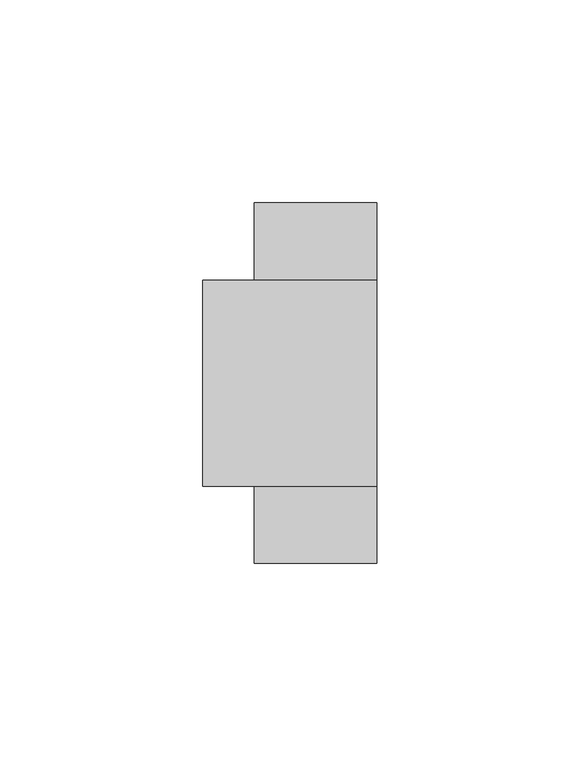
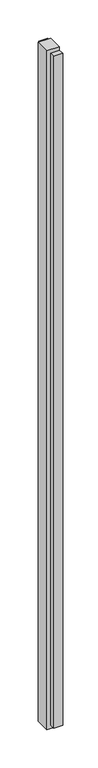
"""IFC4 building model written with IfcOpenShell, lengths in millimetres: furniture geometry, Allsteel - Aspect - Trim - Vertical Trim Kit : Allsteel - Aspect - Trim - Vertical Trim Kit."""

from ifc_helpers import new_model, si_unit, origin, place, context, project, spatial, faceted_brep, source, transform, mapped, element, save


def furniture_fadbf666(model_context):
    return source(origin(), model_context, "Body", "Brep", [
        faceted_brep([(0.0, -25.4, 2438.4), (0.0, 25.4, 2438.4), (-42.8625, 25.4, 2438.4), (-42.8625, -25.4, 2438.4), (0.0, -9.525, 2425.7), (-30.1625, -9.525, 2425.7), (-30.1625, 9.525, 2425.7), (0.0, 9.525, 2425.7), (-42.8625, -25.4, 0.0), (0.0, -25.4, 0.0), (0.0, -25.4, 12.7), (-30.1625, -25.4, 12.7), (-30.1625, -25.4, 2425.7), (0.0, -25.4, 2425.7), (-42.8625, 25.4, 0.0), (0.0, 25.4, 2425.7), (-30.1625, 25.4, 2425.7), (-30.1625, 25.4, 12.7), (0.0, 25.4, 12.7), (0.0, 25.4, 0.0), (0.0, -44.45, 2425.7), (0.0, -44.45, 12.7), (0.0, 44.45, 12.7), (0.0, 44.45, 2425.7), (0.0, 9.525, 12.7), (0.0, -9.525, 12.7), (-30.1625, 44.45, 2425.7), (-30.1625, -44.45, 2425.7), (-30.1625, -44.45, 12.7), (-30.1625, 44.45, 12.7), (-30.1625, 9.525, 12.7), (-30.1625, -9.525, 12.7)], [[[0, 1, 2, 3]], [[4, 5, 6, 7]], [[3, 8, 9, 10, 11, 12, 13, 0]], [[2, 14, 8, 3]], [[1, 15, 16, 17, 18, 19, 14, 2]], [[0, 13, 20, 21, 10, 9, 19, 18, 22, 23, 15, 1], [4, 7, 24, 25]], [[16, 15, 23, 26]], [[20, 13, 12, 27]], [[11, 10, 21, 28]], [[22, 18, 17, 29]], [[26, 29, 17, 16]], [[23, 22, 29, 26]], [[7, 6, 30, 24]], [[6, 5, 31, 30]], [[5, 4, 25, 31]], [[27, 28, 21, 20]], [[12, 11, 28, 27]], [[24, 30, 31, 25]], [[9, 8, 14, 19]]]),
    ])


if __name__ == "__main__":
    model = new_model("IFC4")
    model_context = context("Model", 3, world=origin())
    ifc_project = project(units=[si_unit("LENGTHUNIT", "METRE", prefix="MILLI")], contexts=[model_context])
    site = spatial("IfcSite", under=ifc_project)
    building = spatial("IfcBuilding", under=site)
    placement = place(None, origin())
    furniture_shape = furniture_fadbf666(model_context)
    element("IfcFurniture", 1, ObjectType="Allsteel - Aspect - Trim - Vertical Trim Kit : Allsteel - Aspect - Trim - Vertical Trim Kit", at=placement, inside=building, context=model_context, shape_type="MappedRepresentation", body=[
        mapped(furniture_shape, transform((0.0, 0.0, 0.0), x_axis=(1.0, 0.0, 0.0), y_axis=(0.0, 1.0, 0.0), z_axis=(0.0, 0.0, 1.0))),
    ])
    save(model, "model.ifc")
